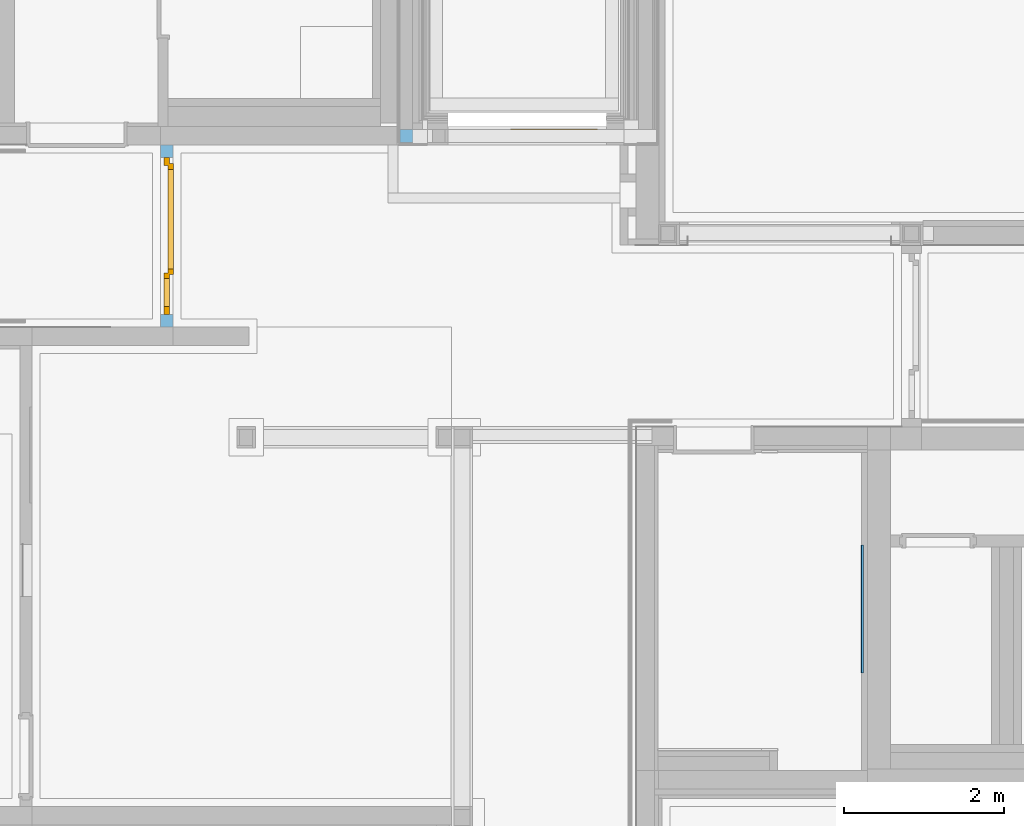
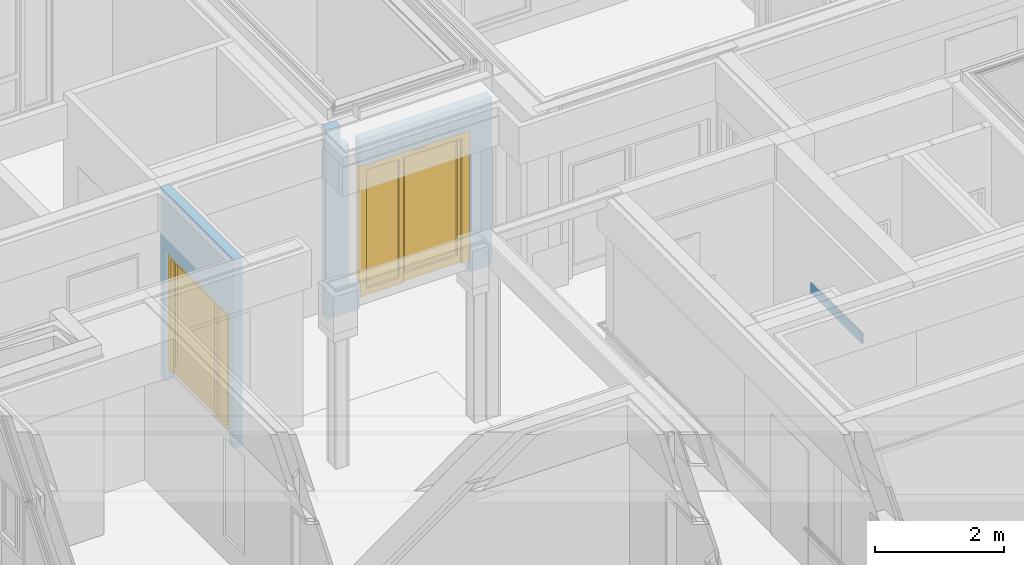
# One storey, part 101 of 207: 2 doors, 1 wall, 2 openings, plus 2 elements that do not belong to this part.
"""IFC4 building model written with IfcOpenShell, lengths in metres."""

from ifc_helpers import new_model, entity, si_unit, converted_unit, derived_unit, frame, frame_2d, origin, origin_with_axes, place, context, subcontext, project, spatial, polyline, rectangle, outline, extrude, clip, bounded_halfspace, closed_shell, open_shell, faceted_brep, surface_model, source, transform, mapped, material, element, fill, save


model = new_model("IFC4")

# Units and contexts
model_context = context("Model", 3, precision=1e-05, world=origin())
body_context = subcontext(model_context, "Body", "Model", "MODEL_VIEW")
ifc_project = project(units=[si_unit("LENGTHUNIT", "METRE"), si_unit("AREAUNIT", "SQUARE_METRE"), si_unit("VOLUMEUNIT", "CUBIC_METRE"), si_unit("MASSUNIT", "GRAM", prefix="KILO"), converted_unit("PLANEANGLEUNIT", "DEGREE", entity("IfcPlaneAngleMeasure", 0.0174532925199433), si_unit("PLANEANGLEUNIT", "RADIAN"), dimensions=[0, 0, 0, 0, 0, 0, 0]), derived_unit("THERMALTRANSMITTANCEUNIT", [(si_unit("POWERUNIT", "WATT"), 1), (si_unit("THERMODYNAMICTEMPERATUREUNIT", "KELVIN"), -1), (si_unit("LENGTHUNIT", "METRE"), -2)]), derived_unit("VOLUMETRICFLOWRATEUNIT", [(si_unit("LENGTHUNIT", "METRE"), 3), (converted_unit("TIMEUNIT", "hour", entity("IfcTimeMeasure", 3600.0), si_unit("TIMEUNIT", "SECOND"), dimensions=[0, 0, 1, 0, 0, 0, 0]), -1), (si_unit("LENGTHUNIT", "METRE"), -1)])], contexts=[model_context])

# Site, building, storey
site_placement = place(None, origin())
site = spatial("IfcSite", under=ifc_project, at=site_placement, Name="Psychiatrie Neubau Wunstorf", CompositionType="ELEMENT")
building_placement = place(site_placement, origin())
building = spatial("IfcBuilding", under=site, at=building_placement, Name="Neubau H2 Stationsgebäude", CompositionType="ELEMENT")
storey_placement = place(building_placement, frame((0.0, 0.0, -0.2)))
storey = spatial("IfcBuildingStorey", under=building, at=storey_placement, Name="H2 Ebene 0", CompositionType="ELEMENT", Elevation=-0.2)

# Wall, opening, door
ifc_material_1 = material(Name="WA-HD")
wall_1_placement = place(storey_placement, frame((34.925, 24.1500036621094, 0.0)))
wall_1 = element("IfcWall", 1, at=wall_1_placement, inside=storey, material=ifc_material_1, context=body_context, shape_type="Clipping", body=[
    clip(clip(clip(extrude(rectangle(XDim=2.9685, YDim=0.16, at=frame_2d((1.48425, 0.08), x_axis=(1.0, 0.0))), origin_with_axes(), (0.0, 0.0, 1.0), 3.6), bounded_halfspace(frame((0.3275, 0.0799995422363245, 3.2), z_axis=(0.0, 0.0, -1.0), x_axis=(-0.999999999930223, -1.18132561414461e-05, 0.0)), True, origin_with_axes(), polyline([(0.405, 0.16), (0.25, 0.159998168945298), (0.25, 0.0), (0.405, 0.0), (0.405, 0.16)]))), bounded_halfspace(frame((1.78475, 0.0799993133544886, 3.2), z_axis=(0.0, 0.0, -1.0), x_axis=(1.0, 0.0, 0.0)), True, origin_with_axes(), polyline([(0.601, 0.0), (2.9685, 0.0), (2.9685, 0.159998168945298), (0.601, 0.159999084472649), (0.601, 0.0)]))), bounded_halfspace(frame((0.503, 0.08, 0.5), z_axis=(0.0, 0.0, -1.0), x_axis=(-1.0, 0.0, 0.0)), True, origin_with_axes(), polyline([(0.601, 0.16), (0.405, 0.16), (0.405, 0.0), (0.601, 0.0), (0.601, 0.16)]))),
])
opening_1_placement = place(wall_1_placement, frame((0.601001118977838, 0.0, 0.0), z_axis=(0.0, 1.0, 0.0), x_axis=(0.0, 0.0, 1.0)))
opening_1 = element("IfcOpeningElement", 2, at=opening_1_placement, cuts=wall_1, Name="Türöffnung", ObjectType="Opening", context=body_context, shape_type="SweptSolid", body=[
    extrude(outline(polyline([(2.7, 1.98299888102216), (2.7, 0.0), (0.0, 0.0), (0.0, 1.98299888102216), (2.7, 1.98299888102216)])), origin_with_axes(), (0.0, 0.0, 1.0), 0.16),
])
ifc_material_2 = material(Name="TA-1F-AG-D-2S-O")
shared_shape_1 = source(origin_with_axes(), body_context, "Body", "SurfaceModel", [
    surface_model("IfcShellBasedSurfaceModel", [(1.98299888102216, 0.0795, 2.7), (1.93299888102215, 0.0795, 2.7), (1.93299888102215, 0.0795, 0.2), (1.98299888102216, 0.0795, 0.2), (1.98299888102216, 0.0005, 0.2), (1.93299888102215, 0.0005, 0.2), (1.93299888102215, 0.0005, 2.7), (1.98299888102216, 0.0005, 2.7)], [closed_shell([[[0, 1, 2, 3]], [[4, 5, 6, 7]], [[3, 4, 7, 0]], [[2, 5, 4, 3]], [[1, 6, 5, 2]], [[0, 7, 6, 1]]], orient=[[False], [False], [False], [False], [False], [False]])]),
    surface_model("IfcShellBasedSurfaceModel", [(0.0500000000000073, 0.0795, 2.7), (0.0, 0.0795, 2.7), (0.0, 0.0795, 0.2), (0.0500000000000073, 0.0795, 0.2), (0.0500000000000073, 0.0005, 0.2), (0.0, 0.0005, 0.2), (0.0, 0.0005, 2.7), (0.0500000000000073, 0.0005, 2.7)], [closed_shell([[[0, 1, 2, 3]], [[4, 5, 6, 7]], [[3, 4, 7, 0]], [[2, 5, 4, 3]], [[1, 6, 5, 2]], [[0, 7, 6, 1]]], orient=[[False], [False], [False], [False], [False], [False]])]),
    surface_model("IfcShellBasedSurfaceModel", [(1.93299888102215, 0.0795, 2.7), (0.0500000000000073, 0.0795, 2.7), (0.0500000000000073, 0.0795, 2.65), (1.93299888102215, 0.0795, 2.65), (1.93299888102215, 0.0005, 2.65), (0.0500000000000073, 0.0005, 2.65), (0.0500000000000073, 0.0005, 2.7), (1.93299888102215, 0.0005, 2.7)], [closed_shell([[[0, 1, 2, 3]], [[4, 5, 6, 7]], [[3, 4, 7, 0]], [[2, 5, 4, 3]], [[1, 6, 5, 2]], [[0, 7, 6, 1]]], orient=[[False], [False], [False], [False], [False], [False]])]),
    surface_model("IfcShellBasedSurfaceModel", [(1.93299888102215, 0.08, 2.65), (1.85299888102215, 0.08, 2.65), (1.85299888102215, 0.08, 0.2), (1.93299888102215, 0.08, 0.2), (1.93299888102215, 0.0, 0.2), (1.85299888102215, 0.0, 0.2), (1.85299888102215, 0.0, 2.65), (1.93299888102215, 0.0, 2.65)], [closed_shell([[[0, 1, 2, 3]], [[4, 5, 6, 7]], [[3, 4, 7, 0]], [[2, 5, 4, 3]], [[1, 6, 5, 2]], [[0, 7, 6, 1]]], orient=[[False], [False], [False], [False], [False], [False]])]),
    surface_model("IfcShellBasedSurfaceModel", [(0.130000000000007, 0.08, 2.65), (0.0500000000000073, 0.08, 2.65), (0.0500000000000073, 0.08, 0.2), (0.130000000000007, 0.08, 0.2), (0.130000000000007, 0.0, 0.2), (0.0500000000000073, 0.0, 0.2), (0.0500000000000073, 0.0, 2.65), (0.130000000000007, 0.0, 2.65)], [closed_shell([[[0, 1, 2, 3]], [[4, 5, 6, 7]], [[3, 4, 7, 0]], [[2, 5, 4, 3]], [[1, 6, 5, 2]], [[0, 7, 6, 1]]], orient=[[False], [False], [False], [False], [False], [False]])]),
    surface_model("IfcShellBasedSurfaceModel", [(1.85299888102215, 0.08, 2.65), (0.130000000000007, 0.08, 2.65), (0.130000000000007, 0.08, 2.57), (1.85299888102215, 0.08, 2.57), (1.85299888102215, 0.0, 2.57), (0.130000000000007, 0.0, 2.57), (0.130000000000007, 0.0, 2.65), (1.85299888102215, 0.0, 2.65)], [closed_shell([[[0, 1, 2, 3]], [[4, 5, 6, 7]], [[3, 4, 7, 0]], [[2, 5, 4, 3]], [[1, 6, 5, 2]], [[0, 7, 6, 1]]], orient=[[False], [False], [False], [False], [False], [False]])]),
    surface_model("IfcShellBasedSurfaceModel", [(1.87199888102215, 0.14, 2.59), (1.80199888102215, 0.14, 2.59), (1.80199888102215, 0.14, 0.18), (1.87199888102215, 0.14, 0.18), (1.87199888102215, 0.06, 0.18), (1.80199888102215, 0.06, 0.18), (1.80199888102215, 0.06, 2.59), (1.87199888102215, 0.06, 2.59)], [closed_shell([[[0, 1, 2, 3]], [[4, 5, 6, 7]], [[3, 4, 7, 0]], [[2, 5, 4, 3]], [[1, 6, 5, 2]], [[0, 7, 6, 1]]], orient=[[False], [False], [False], [False], [False], [False]])]),
    surface_model("IfcShellBasedSurfaceModel", [(0.851998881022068, 0.14, 2.59), (0.78199888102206, 0.14, 2.59), (0.78199888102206, 0.14, 0.18), (0.851998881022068, 0.14, 0.18), (0.851998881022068, 0.06, 0.18), (0.78199888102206, 0.06, 0.18), (0.78199888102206, 0.06, 2.59), (0.851998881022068, 0.06, 2.59)], [closed_shell([[[0, 1, 2, 3]], [[4, 5, 6, 7]], [[3, 4, 7, 0]], [[2, 5, 4, 3]], [[1, 6, 5, 2]], [[0, 7, 6, 1]]], orient=[[False], [False], [False], [False], [False], [False]])]),
    surface_model("IfcShellBasedSurfaceModel", [(1.80199888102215, 0.14, 0.33), (0.851998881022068, 0.14, 0.33), (0.851998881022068, 0.14, 0.18), (1.80199888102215, 0.14, 0.18), (1.80199888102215, 0.06, 0.18), (0.851998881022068, 0.06, 0.18), (0.851998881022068, 0.06, 0.33), (1.80199888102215, 0.06, 0.33)], [closed_shell([[[0, 1, 2, 3]], [[4, 5, 6, 7]], [[3, 4, 7, 0]], [[2, 5, 4, 3]], [[1, 6, 5, 2]], [[0, 7, 6, 1]]], orient=[[False], [False], [False], [False], [False], [False]])]),
    surface_model("IfcShellBasedSurfaceModel", [(1.80199888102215, 0.14, 2.59), (0.851998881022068, 0.14, 2.59), (0.851998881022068, 0.14, 2.52), (1.80199888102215, 0.14, 2.52), (1.80199888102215, 0.06, 2.52), (0.851998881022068, 0.06, 2.52), (0.851998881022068, 0.06, 2.59), (1.80199888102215, 0.06, 2.59)], [closed_shell([[[0, 1, 2, 3]], [[4, 5, 6, 7]], [[3, 4, 7, 0]], [[2, 5, 4, 3]], [[1, 6, 5, 2]], [[0, 7, 6, 1]]], orient=[[False], [False], [False], [False], [False], [False]])]),
    surface_model("IfcShellBasedSurfaceModel", [(0.800998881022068, 0.08, 2.57), (0.72099888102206, 0.08, 2.57), (0.72099888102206, 0.08, 0.2), (0.800998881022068, 0.08, 0.2), (0.800998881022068, 0.0, 0.2), (0.72099888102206, 0.0, 0.2), (0.72099888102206, 0.0, 2.57), (0.800998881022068, 0.0, 2.57)], [closed_shell([[[0, 1, 2, 3]], [[4, 5, 6, 7]], [[3, 4, 7, 0]], [[2, 5, 4, 3]], [[1, 6, 5, 2]], [[0, 7, 6, 1]]], orient=[[False], [False], [False], [False], [False], [False]])]),
    surface_model("IfcShellBasedSurfaceModel", [(0.72099888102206, 0.08, 0.32), (0.130000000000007, 0.08, 0.32), (0.130000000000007, 0.08, 0.2), (0.72099888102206, 0.08, 0.2), (0.72099888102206, 0.0, 0.2), (0.130000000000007, 0.0, 0.2), (0.130000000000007, 0.0, 0.32), (0.72099888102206, 0.0, 0.32)], [closed_shell([[[0, 1, 2, 3]], [[4, 5, 6, 7]], [[3, 4, 7, 0]], [[2, 5, 4, 3]], [[1, 6, 5, 2]], [[0, 7, 6, 1]]], orient=[[False], [False], [False], [False], [False], [False]])]),
    surface_model("IfcShellBasedSurfaceModel", [(0.72099888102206, 0.04, 0.32), (0.72099888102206, 0.04, 2.57), (0.130000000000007, 0.04, 2.57), (0.130000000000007, 0.04, 0.32)], [open_shell([[[0, 1, 2, 3]]], orient=[[False]])]),
    surface_model("IfcShellBasedSurfaceModel", [(1.80199888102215, 0.1, 0.33), (1.80199888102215, 0.1, 2.52), (0.851998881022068, 0.1, 2.52), (0.851998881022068, 0.1, 0.33)], [open_shell([[[0, 1, 2, 3]]], orient=[[False]])]),
])
door_1_placement = place(opening_1_placement, frame((0.0, 0.0, 0.029), z_axis=(1.0, 0.0, 0.0), x_axis=(0.0, 1.0, 0.0)))
door_1 = element("IfcDoor", 3, at=door_1_placement, inside=storey, material=ifc_material_2, Name="SMT", OperationType="USERDEFINED", OverallHeight=2.7, OverallWidth=1.983, PredefinedType="DOOR", context=body_context, shape_type="MappedRepresentation", body=[
    mapped(shared_shape_1, transform((0.0, 0.0, 0.0), x_axis=(1.0, 0.0, 0.0), y_axis=(0.0, 1.0, 0.0), z_axis=(0.0, 0.0, 1.0), scale=1.0)),
])
fill(opening_1, door_1)

# Wall
wall_2_placement = place(storey_placement, frame((40.7040000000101, 17.5065531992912, 1.55)))
element("IfcWall", 4, at=wall_2_placement, inside=storey, Name="WV 1.1", context=body_context, shape_type="Brep", body=[
    faceted_brep([(0.0, 0.0, 0.0), (0.025, 0.0, 0.0), (0.025, 1.6, 0.0), (0.0, 1.6, 0.0), (0.025, 0.0, 0.2), (0.0, 0.0, 0.2), (0.0, 1.6, 0.2), (0.025, 1.6, 0.2)], [[[0, 1, 2, 3]], [[4, 5, 6, 7]], [[1, 0, 5, 4]], [[2, 1, 4, 7]], [[3, 2, 7, 6]], [[0, 3, 6, 5]]], orient=[[False], [False], [False], [False], [False], [False]]),
])

# Wall, opening, door
ifc_material_3 = material(Name="WI-LB")
wall_3_placement = place(storey_placement, frame((32.083, 21.8360000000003, 0.0), z_axis=(0.0, 0.0, 1.0), x_axis=(0.0, 1.0, 0.0)))
wall_3 = element("IfcWall", 5, at=wall_3_placement, inside=storey, material=ifc_material_3, context=body_context, shape_type="SweptSolid", body=[
    extrude(rectangle(XDim=2.28150000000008, YDim=0.155, at=frame_2d((1.14075000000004, 0.0775), x_axis=(1.0, 0.0))), origin_with_axes(), (0.0, 0.0, 1.0), 3.6),
])
opening_2_placement = place(wall_3_placement, frame((2.12650000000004, 0.155, 0.0), z_axis=(0.0, -1.0, 0.0), x_axis=(0.0, 0.0, 1.0)))
opening_2 = element("IfcOpeningElement", 6, at=opening_2_placement, cuts=wall_3, Name="Türöffnung", ObjectType="Opening", context=body_context, shape_type="SweptSolid", body=[
    extrude(outline(polyline([(2.46, 1.9715), (2.46, 0.0), (0.0, 0.0), (0.0, 1.9715), (2.46, 1.9715)])), origin_with_axes(), (0.0, 0.0, 1.0), 0.155),
])
ifc_material_4 = material(Name="TI-2F-AG-D-O")
shared_shape_2 = source(origin_with_axes(), body_context, "Body", "Brep", [
    faceted_brep([(-0.127499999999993, 0.0854999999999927, 0.0), (-0.127499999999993, -0.0145000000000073, 0.0), (-0.0274999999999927, -0.0145000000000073, 0.0), (-0.0274999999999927, 0.0854999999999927, 0.0), (-0.127499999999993, -0.0145000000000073, 3.6), (-0.127499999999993, 0.0854999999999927, 3.6), (-0.0274999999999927, 0.0854999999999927, 3.6), (-0.0274999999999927, -0.0145000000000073, 3.6)], [[[0, 1, 2, 3]], [[4, 5, 6, 7]], [[1, 0, 5, 4]], [[2, 1, 4, 7]], [[3, 2, 7, 6]], [[0, 3, 6, 5]]], orient=[[False], [False], [False], [False], [False], [False]]),
    faceted_brep([(1.99900000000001, 0.0854999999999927, 0.0), (1.99900000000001, -0.0145000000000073, 0.0), (2.09900000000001, -0.0145000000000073, 0.0), (2.09900000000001, 0.0854999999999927, 0.0), (1.99900000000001, -0.0145000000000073, 3.6), (1.99900000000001, 0.0854999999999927, 3.6), (2.09900000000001, 0.0854999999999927, 3.6), (2.09900000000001, -0.0145000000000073, 3.6)], [[[0, 1, 2, 3]], [[4, 5, 6, 7]], [[1, 0, 5, 4]], [[2, 1, 4, 7]], [[3, 2, 7, 6]], [[0, 3, 6, 5]]], orient=[[False], [False], [False], [False], [False], [False]]),
    faceted_brep([(-0.0274999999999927, 0.0854999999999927, 2.4875), (-0.0274999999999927, -0.0145000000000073, 2.4875), (1.99900000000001, -0.0145000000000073, 2.4875), (1.99900000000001, 0.0854999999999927, 2.4875), (-0.0274999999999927, -0.0145000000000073, 2.5875), (-0.0274999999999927, 0.0854999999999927, 2.5875), (1.99900000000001, 0.0854999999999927, 2.5875), (1.99900000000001, -0.0145000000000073, 2.5875)], [[[0, 1, 2, 3]], [[4, 5, 6, 7]], [[1, 0, 5, 4]], [[2, 1, 4, 7]], [[3, 2, 7, 6]], [[0, 3, 6, 5]]], orient=[[False], [False], [False], [False], [False], [False]]),
])
shared_shape_3 = source(origin_with_axes(), body_context, "Body", "SurfaceModel", [
    surface_model("IfcShellBasedSurfaceModel", [(0.0, 0.000499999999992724, 2.46), (0.100000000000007, 0.000499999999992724, 2.46), (0.100000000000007, 0.000499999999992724, 0.2), (0.0, 0.000499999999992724, 0.2), (0.0, 0.0704999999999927, 0.2), (0.100000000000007, 0.0704999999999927, 0.2), (0.100000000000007, 0.0704999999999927, 2.46), (0.0, 0.0704999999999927, 2.46)], [closed_shell([[[0, 1, 2, 3]], [[4, 5, 6, 7]], [[3, 4, 7, 0]], [[2, 5, 4, 3]], [[1, 6, 5, 2]], [[0, 7, 6, 1]]], orient=[[False], [False], [False], [False], [False], [False]])]),
    surface_model("IfcShellBasedSurfaceModel", [(1.87150000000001, 0.000499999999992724, 2.46), (1.97150000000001, 0.000499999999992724, 2.46), (1.97150000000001, 0.000499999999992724, 0.2), (1.87150000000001, 0.000499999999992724, 0.2), (1.87150000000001, 0.0704999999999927, 0.2), (1.97150000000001, 0.0704999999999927, 0.2), (1.97150000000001, 0.0704999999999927, 2.46), (1.87150000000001, 0.0704999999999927, 2.46)], [closed_shell([[[0, 1, 2, 3]], [[4, 5, 6, 7]], [[3, 4, 7, 0]], [[2, 5, 4, 3]], [[1, 6, 5, 2]], [[0, 7, 6, 1]]], orient=[[False], [False], [False], [False], [False], [False]])]),
    surface_model("IfcShellBasedSurfaceModel", [(0.100000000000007, 0.000499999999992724, 2.46), (1.87150000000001, 0.000499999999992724, 2.46), (1.87150000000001, 0.000499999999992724, 2.36), (0.100000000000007, 0.000499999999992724, 2.36), (0.100000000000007, 0.0704999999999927, 2.36), (1.87150000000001, 0.0704999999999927, 2.36), (1.87150000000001, 0.0704999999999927, 2.46), (0.100000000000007, 0.0704999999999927, 2.46)], [closed_shell([[[0, 1, 2, 3]], [[4, 5, 6, 7]], [[3, 4, 7, 0]], [[2, 5, 4, 3]], [[1, 6, 5, 2]], [[0, 7, 6, 1]]], orient=[[False], [False], [False], [False], [False], [False]])]),
    surface_model("IfcShellBasedSurfaceModel", [(1.45000000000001, 0.000499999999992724, 2.36), (1.52000000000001, 0.000499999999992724, 2.36), (1.52000000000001, 0.000499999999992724, 0.2), (1.45000000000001, 0.000499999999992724, 0.2), (1.45000000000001, 0.0704999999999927, 0.2), (1.52000000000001, 0.0704999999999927, 0.2), (1.52000000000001, 0.0704999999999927, 2.36), (1.45000000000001, 0.0704999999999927, 2.36)], [closed_shell([[[0, 1, 2, 3]], [[4, 5, 6, 7]], [[3, 4, 7, 0]], [[2, 5, 4, 3]], [[1, 6, 5, 2]], [[0, 7, 6, 1]]], orient=[[False], [False], [False], [False], [False], [False]])]),
    surface_model("IfcShellBasedSurfaceModel", [(0.0800000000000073, 0.0504999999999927, 2.38), (0.150000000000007, 0.0504999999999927, 2.38), (0.150000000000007, 0.0504999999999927, 0.18), (0.0800000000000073, 0.0504999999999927, 0.18), (0.0800000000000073, 0.120499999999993, 0.18), (0.150000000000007, 0.120499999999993, 0.18), (0.150000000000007, 0.120499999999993, 2.38), (0.0800000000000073, 0.120499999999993, 2.38)], [closed_shell([[[0, 1, 2, 3]], [[4, 5, 6, 7]], [[3, 4, 7, 0]], [[2, 5, 4, 3]], [[1, 6, 5, 2]], [[0, 7, 6, 1]]], orient=[[False], [False], [False], [False], [False], [False]])]),
    surface_model("IfcShellBasedSurfaceModel", [(1.40000000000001, 0.0504999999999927, 2.38), (1.47000000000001, 0.0504999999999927, 2.38), (1.47000000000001, 0.0504999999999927, 0.18), (1.40000000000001, 0.0504999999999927, 0.18), (1.40000000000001, 0.120499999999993, 0.18), (1.47000000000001, 0.120499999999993, 0.18), (1.47000000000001, 0.120499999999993, 2.38), (1.40000000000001, 0.120499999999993, 2.38)], [closed_shell([[[0, 1, 2, 3]], [[4, 5, 6, 7]], [[3, 4, 7, 0]], [[2, 5, 4, 3]], [[1, 6, 5, 2]], [[0, 7, 6, 1]]], orient=[[False], [False], [False], [False], [False], [False]])]),
    surface_model("IfcShellBasedSurfaceModel", [(0.150000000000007, 0.0504999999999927, 0.33), (1.40000000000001, 0.0504999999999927, 0.33), (1.40000000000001, 0.0504999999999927, 0.18), (0.150000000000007, 0.0504999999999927, 0.18), (0.150000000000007, 0.120499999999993, 0.18), (1.40000000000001, 0.120499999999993, 0.18), (1.40000000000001, 0.120499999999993, 0.33), (0.150000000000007, 0.120499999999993, 0.33)], [closed_shell([[[0, 1, 2, 3]], [[4, 5, 6, 7]], [[3, 4, 7, 0]], [[2, 5, 4, 3]], [[1, 6, 5, 2]], [[0, 7, 6, 1]]], orient=[[False], [False], [False], [False], [False], [False]])]),
    surface_model("IfcShellBasedSurfaceModel", [(0.150000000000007, 0.0504999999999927, 2.38), (1.40000000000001, 0.0504999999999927, 2.38), (1.40000000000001, 0.0504999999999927, 2.31), (0.150000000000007, 0.0504999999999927, 2.31), (0.150000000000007, 0.120499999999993, 2.31), (1.40000000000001, 0.120499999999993, 2.31), (1.40000000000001, 0.120499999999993, 2.38), (0.150000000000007, 0.120499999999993, 2.38)], [closed_shell([[[0, 1, 2, 3]], [[4, 5, 6, 7]], [[3, 4, 7, 0]], [[2, 5, 4, 3]], [[1, 6, 5, 2]], [[0, 7, 6, 1]]], orient=[[False], [False], [False], [False], [False], [False]])]),
    surface_model("IfcShellBasedSurfaceModel", [(1.52000000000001, 0.000499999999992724, 0.27), (1.87150000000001, 0.000499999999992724, 0.27), (1.87150000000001, 0.000499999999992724, 0.2), (1.52000000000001, 0.000499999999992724, 0.2), (1.52000000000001, 0.0704999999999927, 0.2), (1.87150000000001, 0.0704999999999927, 0.2), (1.87150000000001, 0.0704999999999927, 0.27), (1.52000000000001, 0.0704999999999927, 0.27)], [closed_shell([[[0, 1, 2, 3]], [[4, 5, 6, 7]], [[3, 4, 7, 0]], [[2, 5, 4, 3]], [[1, 6, 5, 2]], [[0, 7, 6, 1]]], orient=[[False], [False], [False], [False], [False], [False]])]),
    surface_model("IfcShellBasedSurfaceModel", [(0.150000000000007, 0.0854999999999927, 0.33), (0.150000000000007, 0.0854999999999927, 2.31), (1.40000000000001, 0.0854999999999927, 2.31), (1.40000000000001, 0.0854999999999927, 0.33)], [open_shell([[[0, 1, 2, 3]]], orient=[[False]])]),
    surface_model("IfcShellBasedSurfaceModel", [(1.52000000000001, 0.0354999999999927, 0.27), (1.52000000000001, 0.0354999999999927, 2.36), (1.87150000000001, 0.0354999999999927, 2.36), (1.87150000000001, 0.0354999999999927, 0.27)], [open_shell([[[0, 1, 2, 3]]], orient=[[False]])]),
])
door_2_placement = place(opening_2_placement, frame((0.0, 0.0, 0.042), z_axis=(1.0, 0.0, 0.0), x_axis=(0.0, 1.0, 0.0)))
door_2 = element("IfcDoor", 7, at=door_2_placement, inside=storey, material=ifc_material_4, Name="SMT", OperationType="USERDEFINED", OverallHeight=2.46, OverallWidth=1.9715, PredefinedType="DOOR", context=body_context, shape_type="MappedRepresentation", body=[
    mapped(shared_shape_2, transform((0.0, 0.0, 0.0), x_axis=(1.0, 0.0, 0.0), y_axis=(0.0, 1.0, 0.0), z_axis=(0.0, 0.0, 1.0), scale=1.0)),
    mapped(shared_shape_3, transform((0.0, 0.0, 0.0), x_axis=(1.0, 0.0, 0.0), y_axis=(0.0, 1.0, 0.0), z_axis=(0.0, 0.0, 1.0), scale=1.0)),
])
fill(opening_2, door_2)

save(model, "model.ifc")
